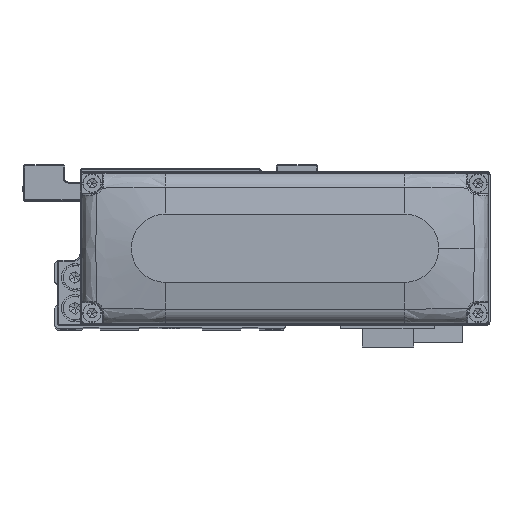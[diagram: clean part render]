
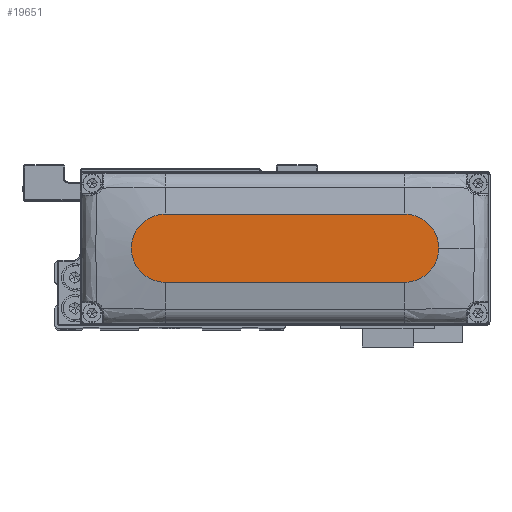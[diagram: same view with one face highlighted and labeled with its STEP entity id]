
A CAD part, top view. The second image highlights one B-rep face of the part: STEP entity #19651.
In plain terms, the highlighted planar face has unit normal (0, 0, 1).
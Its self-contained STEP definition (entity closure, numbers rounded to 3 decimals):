
#946 = VECTOR ( 'NONE', #31805, 1000. ) ;
#1115 = CARTESIAN_POINT ( 'NONE',  ( 45., 0., 28. ) ) ;
#1640 = DIRECTION ( 'NONE',  ( 1., 0., 0. ) ) ;
#1993 = ORIENTED_EDGE ( 'NONE', *, *, #17992, .T. ) ;
#2320 = CARTESIAN_POINT ( 'NONE',  ( 35., -10., 28. ) ) ;
#2955 = DIRECTION ( 'NONE',  ( -1., 0., 0. ) ) ;
#3902 = CARTESIAN_POINT ( 'NONE',  ( 35., 10., 28. ) ) ;
#4345 = DIRECTION ( 'NONE',  ( 1., 0., 0. ) ) ;
#4634 = EDGE_CURVE ( 'NONE', #7981, #31558, #9292, .T. ) ;
#7850 = AXIS2_PLACEMENT_3D ( 'NONE', #12671, #24216, #35800 ) ;
#7981 = VERTEX_POINT ( 'NONE', #1115 ) ;
#8505 = ORIENTED_EDGE ( 'NONE', *, *, #19223, .T. ) ;
#8688 = LINE ( 'NONE', #20224, #946 ) ;
#9051 = VERTEX_POINT ( 'NONE', #2320 ) ;
#9292 = CIRCLE ( 'NONE', #30486, 10. ) ;
#9583 = DIRECTION ( 'NONE',  ( 0., 0., 1. ) ) ;
#10835 = VECTOR ( 'NONE', #2955, 1000. ) ;
#11439 = EDGE_LOOP ( 'NONE', ( #13218, #8505, #19324, #1993, #32629 ) ) ;
#12424 = FACE_OUTER_BOUND ( 'NONE', #11439, .T. ) ;
#12671 = CARTESIAN_POINT ( 'NONE',  ( -35., 0., 28. ) ) ;
#13218 = ORIENTED_EDGE ( 'NONE', *, *, #16813, .T. ) ;
#13822 = AXIS2_PLACEMENT_3D ( 'NONE', #16046, #27621, #1640 ) ;
#15156 = EDGE_CURVE ( 'NONE', #17529, #9051, #8688, .T. ) ;
#16046 = CARTESIAN_POINT ( 'NONE',  ( 35., 0., 28. ) ) ;
#16813 = EDGE_CURVE ( 'NONE', #31558, #29218, #17354, .T. ) ;
#17354 = LINE ( 'NONE', #28937, #10835 ) ;
#17529 = VERTEX_POINT ( 'NONE', #24633 ) ;
#17992 = EDGE_CURVE ( 'NONE', #9051, #7981, #30193, .T. ) ;
#18733 = CARTESIAN_POINT ( 'NONE',  ( 35., 0., 28. ) ) ;
#19223 = EDGE_CURVE ( 'NONE', #29218, #17529, #24190, .T. ) ;
#19324 = ORIENTED_EDGE ( 'NONE', *, *, #15156, .T. ) ;
#19651 = ADVANCED_FACE ( 'NONE', ( #12424 ), #23974, .T. ) ;
#20224 = CARTESIAN_POINT ( 'NONE',  ( -35., -10., 28. ) ) ;
#21139 = DIRECTION ( 'NONE',  ( 1., 0., 0. ) ) ;
#23974 = PLANE ( 'NONE',  #29068 ) ;
#24190 = CIRCLE ( 'NONE', #7850, 10. ) ;
#24216 = DIRECTION ( 'NONE',  ( 0., 0., 1. ) ) ;
#24633 = CARTESIAN_POINT ( 'NONE',  ( -35., -10., 28. ) ) ;
#27621 = DIRECTION ( 'NONE',  ( 0., 0., 1. ) ) ;
#28937 = CARTESIAN_POINT ( 'NONE',  ( -35., 10., 28. ) ) ;
#29068 = AXIS2_PLACEMENT_3D ( 'NONE', #35567, #9583, #21139 ) ;
#29218 = VERTEX_POINT ( 'NONE', #36755 ) ;
#30193 = CIRCLE ( 'NONE', #13822, 10. ) ;
#30323 = DIRECTION ( 'NONE',  ( 0., 0., 1. ) ) ;
#30486 = AXIS2_PLACEMENT_3D ( 'NONE', #18733, #30323, #4345 ) ;
#31558 = VERTEX_POINT ( 'NONE', #3902 ) ;
#31805 = DIRECTION ( 'NONE',  ( 1., 0., 0. ) ) ;
#32629 = ORIENTED_EDGE ( 'NONE', *, *, #4634, .T. ) ;
#35567 = CARTESIAN_POINT ( 'NONE',  ( 0., 0., 28. ) ) ;
#35800 = DIRECTION ( 'NONE',  ( 1., 0., 0. ) ) ;
#36755 = CARTESIAN_POINT ( 'NONE',  ( -35., 10., 28. ) ) ;
